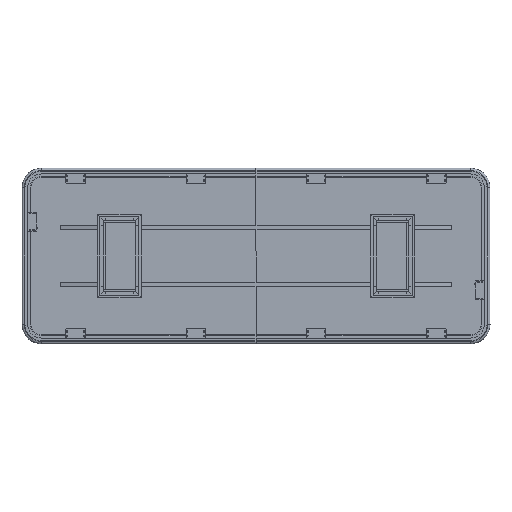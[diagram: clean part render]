
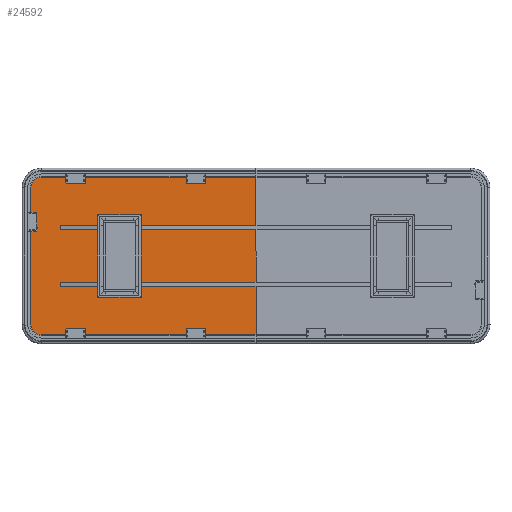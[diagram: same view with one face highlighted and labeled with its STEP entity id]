
A CAD part, front view. The second image highlights one B-rep face of the part: STEP entity #24592.
In plain terms, the highlighted planar face has unit normal (0, -1, 0).
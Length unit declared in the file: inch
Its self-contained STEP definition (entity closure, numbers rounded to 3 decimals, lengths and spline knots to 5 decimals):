
#3134=CIRCLE('',#28326,4.25);
#3136=CIRCLE('',#28330,4.25);
#5007=FACE_OUTER_BOUND('',#6326,.T.);
#6326=EDGE_LOOP('',(#20696,#20697,#20698,#20699,#20700,#20701));
#8253=LINE('',#44315,#10397);
#8257=LINE('',#44327,#10401);
#8260=LINE('',#44333,#10404);
#8263=LINE('',#44338,#10407);
#10397=VECTOR('',#35033,0.3937);
#10401=VECTOR('',#35045,0.3937);
#10404=VECTOR('',#35050,0.3937);
#10407=VECTOR('',#35055,0.3937);
#12430=VERTEX_POINT('',#44305);
#12431=VERTEX_POINT('',#44306);
#12434=VERTEX_POINT('',#44314);
#12436=VERTEX_POINT('',#44320);
#12438=VERTEX_POINT('',#44326);
#12440=VERTEX_POINT('',#44332);
#15240=EDGE_CURVE('',#12430,#12431,#3134,.T.);
#15244=EDGE_CURVE('',#12434,#12430,#8253,.T.);
#15247=EDGE_CURVE('',#12436,#12434,#3136,.T.);
#15250=EDGE_CURVE('',#12438,#12436,#8257,.T.);
#15253=EDGE_CURVE('',#12440,#12438,#8260,.T.);
#15256=EDGE_CURVE('',#12431,#12440,#8263,.T.);
#20696=ORIENTED_EDGE('',*,*,#15256,.F.);
#20697=ORIENTED_EDGE('',*,*,#15240,.F.);
#20698=ORIENTED_EDGE('',*,*,#15244,.F.);
#20699=ORIENTED_EDGE('',*,*,#15247,.F.);
#20700=ORIENTED_EDGE('',*,*,#15250,.F.);
#20701=ORIENTED_EDGE('',*,*,#15253,.F.);
#22518=PLANE('',#28336);
#24592=ADVANCED_FACE('',(#5007),#22518,.F.);
#28326=AXIS2_PLACEMENT_3D('',#44307,#35025,#35026);
#28330=AXIS2_PLACEMENT_3D('',#44321,#35038,#35039);
#28336=AXIS2_PLACEMENT_3D('',#44341,#35059,#35060);
#35025=DIRECTION('center_axis',(0.,1.,0.));
#35026=DIRECTION('ref_axis',(-1.,0.,0.));
#35033=DIRECTION('',(0.,0.,1.));
#35038=DIRECTION('center_axis',(0.,1.,0.));
#35039=DIRECTION('ref_axis',(0.,0.,-1.));
#35045=DIRECTION('',(-1.,0.,0.));
#35050=DIRECTION('',(0.,0.,-1.));
#35055=DIRECTION('',(1.,0.,0.));
#35059=DIRECTION('center_axis',(0.,1.,0.));
#35060=DIRECTION('ref_axis',(0.,0.,1.));
#44305=CARTESIAN_POINT('',(1.75,0.,-6.));
#44306=CARTESIAN_POINT('',(6.,0.,-1.75));
#44307=CARTESIAN_POINT('Origin',(6.,0.,-6.));
#44314=CARTESIAN_POINT('',(1.75,0.,-48.));
#44315=CARTESIAN_POINT('',(1.75,0.,-48.));
#44320=CARTESIAN_POINT('',(6.,0.,-52.25));
#44321=CARTESIAN_POINT('Origin',(6.,0.,-48.));
#44326=CARTESIAN_POINT('',(72.,0.,-52.25));
#44327=CARTESIAN_POINT('',(72.,0.,-52.25));
#44332=CARTESIAN_POINT('',(72.,0.,-1.75));
#44333=CARTESIAN_POINT('',(72.,0.,0.));
#44338=CARTESIAN_POINT('',(6.,0.,-1.75));
#44341=CARTESIAN_POINT('Origin',(36.875,0.,-27.));
